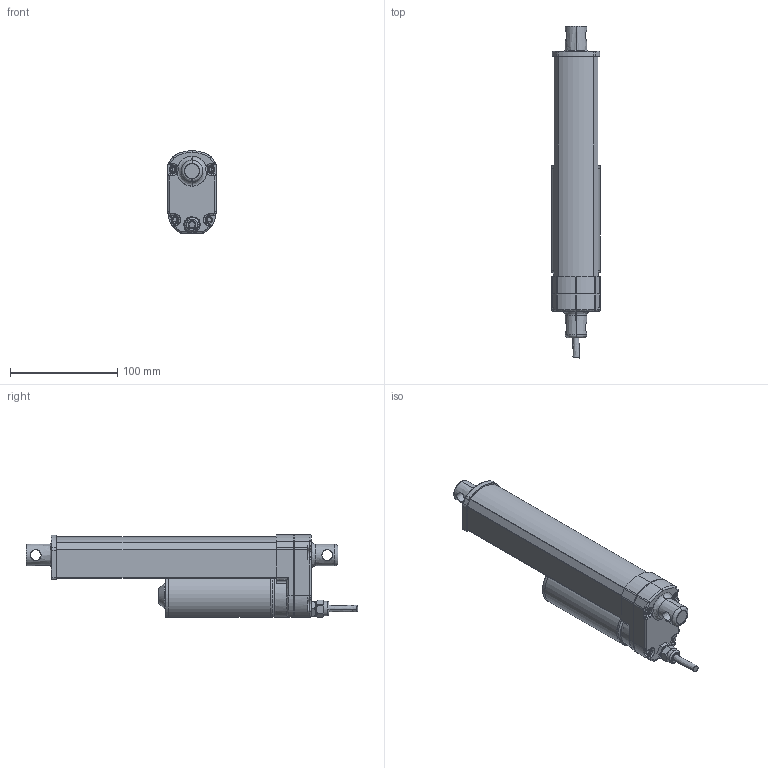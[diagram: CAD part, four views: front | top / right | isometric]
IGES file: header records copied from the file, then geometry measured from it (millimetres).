
Start section: SolidWorks IGES file using analytic representation for surfaces
Bounding box: 45 x 309.61 x 77.05 mm (x, y, z)
Surface area: 86888.3 mm2 (no closed solid volume)
Topology: 0 solids, 0 shells, 366 faces, 4879 edges, 4879 vertices
Faces by surface type: revolution 202, bspline 164
